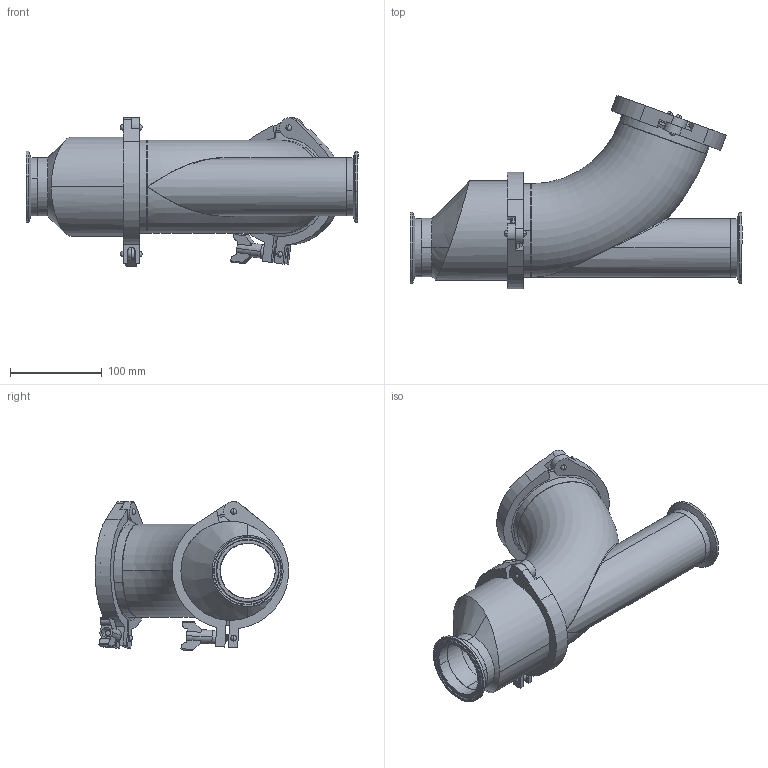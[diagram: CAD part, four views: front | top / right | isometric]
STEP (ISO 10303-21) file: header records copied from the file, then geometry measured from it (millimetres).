
FILE_DESCRIPTION (( 'STEP AP203' ), '1' );
FILE_NAME ('EG45BY-62.5.STEP', '2019-11-14T20:26:09', ( 'vneprd' ), ( 'Microsoft' ), 'SwSTEP 2.0', 'SolidWorks 2018', '' );
FILE_SCHEMA (( 'CONFIG_CONTROL_DESIGN' ));
Length unit declared in the file: inch
Products named in the file (1): EG45BY-62.5
Bounding box: 361.44 x 210.6 x 162.23 mm (x, y, z)
Volume: 731354.8 mm3; surface area: 383473.2 mm2
Topology: 21 solids, 21 shells, 515 faces, 1277 edges, 817 vertices
Faces by surface type: cylinder 249, plane 123, torus 72, cone 32, sphere 28, bspline 11
Entity records: 27802 total; most frequent: CARTESIAN_POINT 15852, ORIENTED_EDGE 2542, DIRECTION 2504, EDGE_CURVE 1271, AXIS2_PLACEMENT_3D 1023, VERTEX_POINT 817, EDGE_LOOP 576, CIRCLE 518
